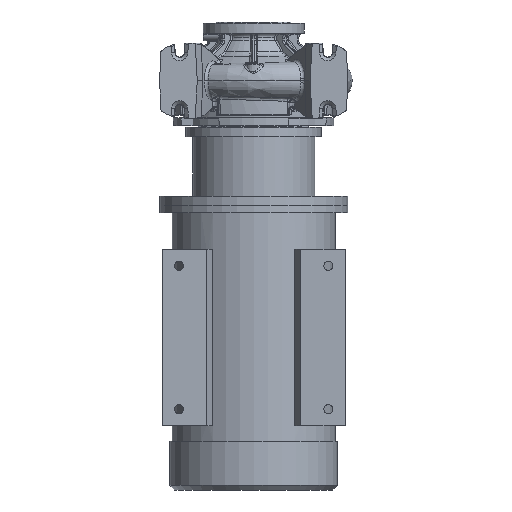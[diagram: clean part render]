
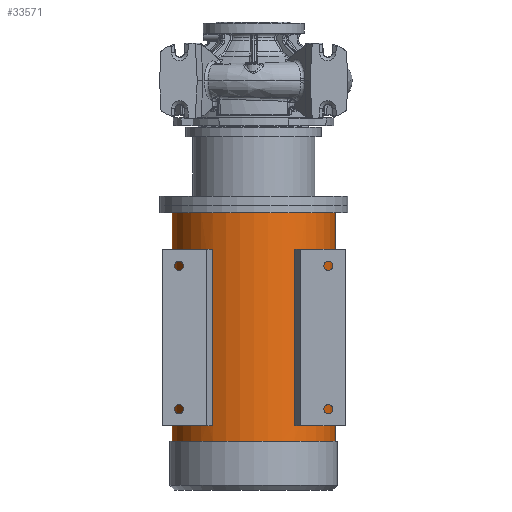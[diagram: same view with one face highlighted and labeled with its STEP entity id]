
A CAD part, front view. The second image highlights one B-rep face of the part: STEP entity #33571.
In plain terms, the highlighted cylindrical face has radius 173.5 mm (diameter 347 mm), a partial arc.
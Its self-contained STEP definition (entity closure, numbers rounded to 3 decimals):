
#440 = VECTOR ( 'NONE', #65025, 1000. ) ;
#2097 = LINE ( 'NONE', #7215, #60653 ) ;
#2523 = DIRECTION ( 'NONE',  ( 1., 0., 0. ) ) ;
#3307 = CIRCLE ( 'NONE', #4244, 173.5 ) ;
#3518 = DIRECTION ( 'NONE',  ( 0., 0., -1. ) ) ;
#3760 = EDGE_CURVE ( 'NONE', #49086, #41226, #33143, .T. ) ;
#3831 = DIRECTION ( 'NONE',  ( 0., 0., -1. ) ) ;
#4244 = AXIS2_PLACEMENT_3D ( 'NONE', #25617, #71204, #37278 ) ;
#4253 = CARTESIAN_POINT ( 'NONE',  ( 100.73, -141.265, -870.8 ) ) ;
#4489 = CARTESIAN_POINT ( 'NONE',  ( -87.271, -149.953, -358.8 ) ) ;
#5639 = DIRECTION ( 'NONE',  ( 0., 0., -1. ) ) ;
#6204 = AXIS2_PLACEMENT_3D ( 'NONE', #26009, #9141, #49275 ) ;
#6593 = FACE_BOUND ( 'NONE', #16671, .T. ) ;
#7215 = CARTESIAN_POINT ( 'NONE',  ( 87.271, -149.953, -870.8 ) ) ;
#8657 = ORIENTED_EDGE ( 'NONE', *, *, #32123, .F. ) ;
#9141 = DIRECTION ( 'NONE',  ( 0., 0., -1. ) ) ;
#10397 = CARTESIAN_POINT ( 'NONE',  ( 0., 0., -280.8 ) ) ;
#11166 = VERTEX_POINT ( 'NONE', #20184 ) ;
#12202 = VECTOR ( 'NONE', #62498, 1000. ) ;
#14023 = DIRECTION ( 'NONE',  ( 0., 0., 1. ) ) ;
#16671 = EDGE_LOOP ( 'NONE', ( #48977, #48724, #70994, #33029 ) ) ;
#16948 = LINE ( 'NONE', #49712, #24147 ) ;
#17204 = CARTESIAN_POINT ( 'NONE',  ( 100.73, -141.265, -358.8 ) ) ;
#17687 = EDGE_CURVE ( 'NONE', #66263, #11166, #43650, .T. ) ;
#17893 = EDGE_CURVE ( 'NONE', #65445, #59393, #16948, .T. ) ;
#18311 = CIRCLE ( 'NONE', #58587, 173.5 ) ;
#18634 = ORIENTED_EDGE ( 'NONE', *, *, #17893, .F. ) ;
#18923 = CARTESIAN_POINT ( 'NONE',  ( 0., 0., -733.8 ) ) ;
#20184 = CARTESIAN_POINT ( 'NONE',  ( -173.5, 0., -280.8 ) ) ;
#20952 = ORIENTED_EDGE ( 'NONE', *, *, #71641, .F. ) ;
#21006 = VECTOR ( 'NONE', #3518, 1000. ) ;
#21740 = LINE ( 'NONE', #59308, #440 ) ;
#22248 = DIRECTION ( 'NONE',  ( -1., 0., 0. ) ) ;
#22817 = CARTESIAN_POINT ( 'NONE',  ( -173.5, 0., -870.8 ) ) ;
#23927 = CARTESIAN_POINT ( 'NONE',  ( 100.73, -141.265, -733.8 ) ) ;
#24147 = VECTOR ( 'NONE', #26926, 1000. ) ;
#25617 = CARTESIAN_POINT ( 'NONE',  ( 0., 0., -358.8 ) ) ;
#25634 = EDGE_CURVE ( 'NONE', #63766, #59084, #65406, .T. ) ;
#26009 = CARTESIAN_POINT ( 'NONE',  ( 0., 0., -766.8 ) ) ;
#26926 = DIRECTION ( 'NONE',  ( 0., 0., 1. ) ) ;
#28236 = DIRECTION ( 'NONE',  ( 0., 0., -1. ) ) ;
#29403 = ORIENTED_EDGE ( 'NONE', *, *, #3760, .F. ) ;
#30450 = DIRECTION ( 'NONE',  ( -1., 0., 0. ) ) ;
#30684 = AXIS2_PLACEMENT_3D ( 'NONE', #61929, #5639, #22248 ) ;
#31407 = VERTEX_POINT ( 'NONE', #65645 ) ;
#31729 = CARTESIAN_POINT ( 'NONE',  ( 87.271, -149.953, -733.8 ) ) ;
#32123 = EDGE_CURVE ( 'NONE', #66263, #49086, #21740, .T. ) ;
#32929 = EDGE_CURVE ( 'NONE', #65445, #31407, #43034, .T. ) ;
#33029 = ORIENTED_EDGE ( 'NONE', *, *, #25634, .T. ) ;
#33143 = CIRCLE ( 'NONE', #6204, 173.5 ) ;
#33571 = ADVANCED_FACE ( 'NONE', ( #66926, #6593, #39503 ), #55390, .T. ) ;
#34369 = LINE ( 'NONE', #22817, #12202 ) ;
#35014 = EDGE_CURVE ( 'NONE', #50301, #54664, #2097, .T. ) ;
#35816 = DIRECTION ( 'NONE',  ( 0., 0., 1. ) ) ;
#36531 = ORIENTED_EDGE ( 'NONE', *, *, #32929, .T. ) ;
#37278 = DIRECTION ( 'NONE',  ( 1., 0., 0. ) ) ;
#37535 = CARTESIAN_POINT ( 'NONE',  ( -100.73, -141.265, -358.8 ) ) ;
#39503 = FACE_BOUND ( 'NONE', #56970, .T. ) ;
#39720 = CARTESIAN_POINT ( 'NONE',  ( 87.271, -149.953, -358.8 ) ) ;
#41226 = VERTEX_POINT ( 'NONE', #44470 ) ;
#43034 = CIRCLE ( 'NONE', #69113, 173.5 ) ;
#43650 = CIRCLE ( 'NONE', #57583, 173.5 ) ;
#44470 = CARTESIAN_POINT ( 'NONE',  ( -173.5, 0., -766.8 ) ) ;
#48724 = ORIENTED_EDGE ( 'NONE', *, *, #35014, .T. ) ;
#48977 = ORIENTED_EDGE ( 'NONE', *, *, #55593, .F. ) ;
#49086 = VERTEX_POINT ( 'NONE', #67851 ) ;
#49275 = DIRECTION ( 'NONE',  ( -1., 0., 0. ) ) ;
#49712 = CARTESIAN_POINT ( 'NONE',  ( -87.271, -149.953, -870.8 ) ) ;
#50301 = VERTEX_POINT ( 'NONE', #31729 ) ;
#51145 = EDGE_CURVE ( 'NONE', #59393, #53141, #3307, .T. ) ;
#52973 = CARTESIAN_POINT ( 'NONE',  ( 0., 0., -358.8 ) ) ;
#53141 = VERTEX_POINT ( 'NONE', #37535 ) ;
#53222 = DIRECTION ( 'NONE',  ( 0., 0., 1. ) ) ;
#54664 = VERTEX_POINT ( 'NONE', #39720 ) ;
#54697 = EDGE_CURVE ( 'NONE', #11166, #41226, #34369, .T. ) ;
#55390 = CYLINDRICAL_SURFACE ( 'NONE', #30684, 173.5 ) ;
#55437 = ORIENTED_EDGE ( 'NONE', *, *, #51145, .F. ) ;
#55593 = EDGE_CURVE ( 'NONE', #50301, #59084, #18311, .T. ) ;
#56970 = EDGE_LOOP ( 'NONE', ( #18634, #36531, #20952, #55437 ) ) ;
#57214 = ORIENTED_EDGE ( 'NONE', *, *, #17687, .T. ) ;
#57366 = EDGE_LOOP ( 'NONE', ( #8657, #57214, #60458, #29403 ) ) ;
#57583 = AXIS2_PLACEMENT_3D ( 'NONE', #10397, #28236, #67401 ) ;
#57897 = EDGE_CURVE ( 'NONE', #54664, #63766, #58088, .T. ) ;
#58088 = CIRCLE ( 'NONE', #60107, 173.5 ) ;
#58587 = AXIS2_PLACEMENT_3D ( 'NONE', #59139, #14023, #70312 ) ;
#59084 = VERTEX_POINT ( 'NONE', #23927 ) ;
#59139 = CARTESIAN_POINT ( 'NONE',  ( 0., 0., -733.8 ) ) ;
#59308 = CARTESIAN_POINT ( 'NONE',  ( 173.5, 0., -870.8 ) ) ;
#59327 = DIRECTION ( 'NONE',  ( 0., 0., -1. ) ) ;
#59393 = VERTEX_POINT ( 'NONE', #4489 ) ;
#60107 = AXIS2_PLACEMENT_3D ( 'NONE', #52973, #53222, #30450 ) ;
#60458 = ORIENTED_EDGE ( 'NONE', *, *, #54697, .T. ) ;
#60653 = VECTOR ( 'NONE', #35816, 1000. ) ;
#61929 = CARTESIAN_POINT ( 'NONE',  ( 0., 0., -870.8 ) ) ;
#62498 = DIRECTION ( 'NONE',  ( 0., 0., -1. ) ) ;
#62874 = LINE ( 'NONE', #71802, #67260 ) ;
#63766 = VERTEX_POINT ( 'NONE', #17204 ) ;
#64002 = CARTESIAN_POINT ( 'NONE',  ( -87.271, -149.953, -733.8 ) ) ;
#65025 = DIRECTION ( 'NONE',  ( 0., 0., -1. ) ) ;
#65406 = LINE ( 'NONE', #4253, #21006 ) ;
#65445 = VERTEX_POINT ( 'NONE', #64002 ) ;
#65645 = CARTESIAN_POINT ( 'NONE',  ( -100.73, -141.265, -733.8 ) ) ;
#66263 = VERTEX_POINT ( 'NONE', #71283 ) ;
#66926 = FACE_OUTER_BOUND ( 'NONE', #57366, .T. ) ;
#67260 = VECTOR ( 'NONE', #3831, 1000. ) ;
#67401 = DIRECTION ( 'NONE',  ( -1., 0., 0. ) ) ;
#67851 = CARTESIAN_POINT ( 'NONE',  ( 173.5, 0., -766.8 ) ) ;
#69113 = AXIS2_PLACEMENT_3D ( 'NONE', #18923, #59327, #2523 ) ;
#70312 = DIRECTION ( 'NONE',  ( -1., 0., 0. ) ) ;
#70994 = ORIENTED_EDGE ( 'NONE', *, *, #57897, .T. ) ;
#71204 = DIRECTION ( 'NONE',  ( 0., 0., -1. ) ) ;
#71283 = CARTESIAN_POINT ( 'NONE',  ( 173.5, 0., -280.8 ) ) ;
#71641 = EDGE_CURVE ( 'NONE', #53141, #31407, #62874, .T. ) ;
#71802 = CARTESIAN_POINT ( 'NONE',  ( -100.73, -141.265, -870.8 ) ) ;
